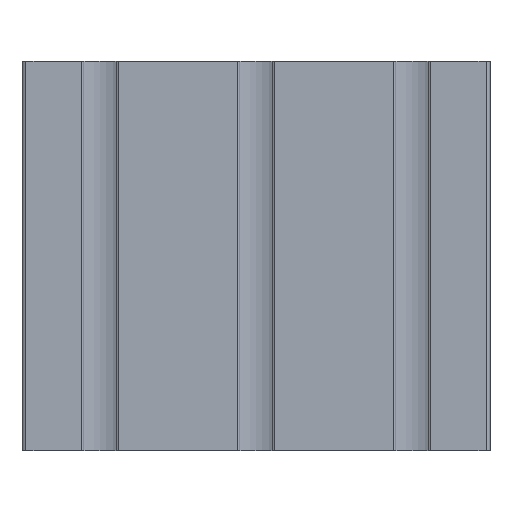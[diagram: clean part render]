
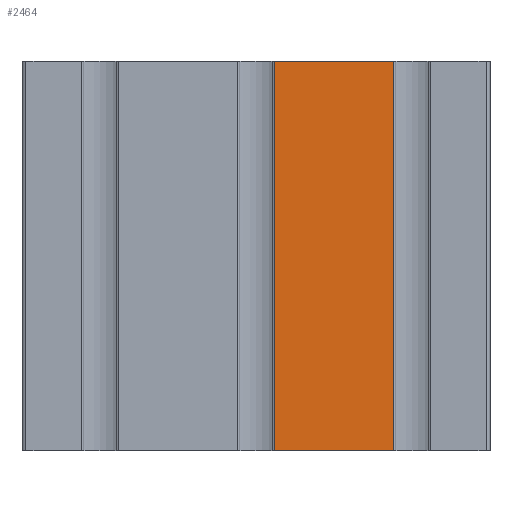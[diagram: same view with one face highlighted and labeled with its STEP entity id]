
A CAD part, front view. The second image highlights one B-rep face of the part: STEP entity #2464.
In plain terms, the highlighted planar face has unit normal (0, -1, 0).
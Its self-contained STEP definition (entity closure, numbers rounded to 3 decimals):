
#1 = VERTEX_POINT ( 'NONE', #2749 ) ;
#226 = DIRECTION ( 'NONE',  ( 0., 0., 1. ) ) ;
#283 = CARTESIAN_POINT ( 'NONE',  ( 4.7, -20., -100. ) ) ;
#394 = DIRECTION ( 'NONE',  ( 0., 0., 1. ) ) ;
#479 = EDGE_CURVE ( 'NONE', #5483, #1, #1007, .T. ) ;
#814 = DIRECTION ( 'NONE',  ( 1., 0., 0. ) ) ;
#829 = FACE_OUTER_BOUND ( 'NONE', #3195, .T. ) ;
#867 = EDGE_CURVE ( 'NONE', #1595, #5483, #3164, .T. ) ;
#911 = CARTESIAN_POINT ( 'NONE',  ( 4.7, -20., -100. ) ) ;
#1007 = LINE ( 'NONE', #5242, #3851 ) ;
#1475 = CARTESIAN_POINT ( 'NONE',  ( 4.7, -20., 0. ) ) ;
#1476 = ORIENTED_EDGE ( 'NONE', *, *, #4282, .T. ) ;
#1577 = ORIENTED_EDGE ( 'NONE', *, *, #867, .F. ) ;
#1595 = VERTEX_POINT ( 'NONE', #911 ) ;
#2112 = DIRECTION ( 'NONE',  ( 0., -1., 0. ) ) ;
#2337 = VECTOR ( 'NONE', #814, 1000. ) ;
#2412 = LINE ( 'NONE', #283, #2337 ) ;
#2464 = ADVANCED_FACE ( 'NONE', ( #829 ), #4779, .T. ) ;
#2477 = ORIENTED_EDGE ( 'NONE', *, *, #479, .F. ) ;
#2520 = CARTESIAN_POINT ( 'NONE',  ( 35.3, -20., -100. ) ) ;
#2643 = DIRECTION ( 'NONE',  ( 1., 0., 0. ) ) ;
#2744 = ORIENTED_EDGE ( 'NONE', *, *, #4220, .T. ) ;
#2745 = CARTESIAN_POINT ( 'NONE',  ( 35.3, -20., -100. ) ) ;
#2749 = CARTESIAN_POINT ( 'NONE',  ( 35.3, -20., 0. ) ) ;
#2765 = DIRECTION ( 'NONE',  ( 1., 0., 0. ) ) ;
#2884 = VECTOR ( 'NONE', #226, 1000. ) ;
#3164 = LINE ( 'NONE', #4887, #2884 ) ;
#3195 = EDGE_LOOP ( 'NONE', ( #2477, #1577, #2744, #1476 ) ) ;
#3288 = AXIS2_PLACEMENT_3D ( 'NONE', #3563, #2112, #2643 ) ;
#3563 = CARTESIAN_POINT ( 'NONE',  ( 4.7, -20., -100. ) ) ;
#3851 = VECTOR ( 'NONE', #2765, 1000. ) ;
#4220 = EDGE_CURVE ( 'NONE', #1595, #4469, #2412, .T. ) ;
#4282 = EDGE_CURVE ( 'NONE', #4469, #1, #4634, .T. ) ;
#4293 = VECTOR ( 'NONE', #394, 1000. ) ;
#4469 = VERTEX_POINT ( 'NONE', #2745 ) ;
#4634 = LINE ( 'NONE', #2520, #4293 ) ;
#4779 = PLANE ( 'NONE',  #3288 ) ;
#4887 = CARTESIAN_POINT ( 'NONE',  ( 4.7, -20., -100. ) ) ;
#5242 = CARTESIAN_POINT ( 'NONE',  ( 4.7, -20., 0. ) ) ;
#5483 = VERTEX_POINT ( 'NONE', #1475 ) ;
